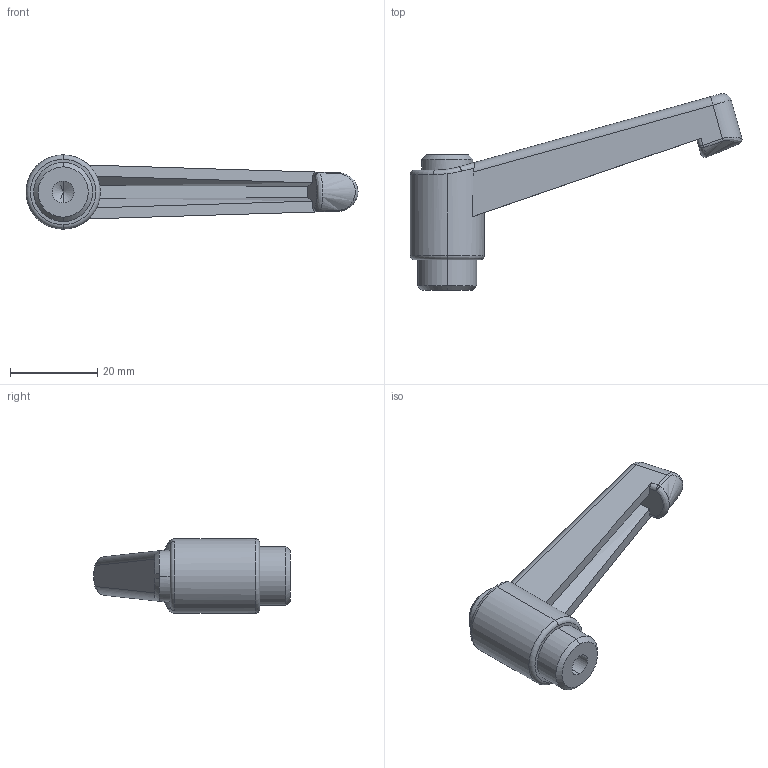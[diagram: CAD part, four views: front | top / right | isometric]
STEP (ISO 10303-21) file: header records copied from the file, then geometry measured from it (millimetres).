
FILE_DESCRIPTION (( 'STEP AP203' ), '1' );
FILE_NAME ('A-403-63-M6.STEP', '2015-11-21T17:37:10', ( '' ), ( '' ), 'SwSTEP 2.0', 'SolidWorks 2014', '' );
FILE_SCHEMA (( 'CONFIG_CONTROL_DESIGN' ));
Length unit declared in the file: millimetre
Products named in the file (1): A-403-63-M6
Bounding box: 76.02 x 45.03 x 17 mm (x, y, z)
Volume: 11159.7 mm3; surface area: 4841.2 mm2
Topology: 1 solids, 1 shells, 55 faces, 132 edges, 79 vertices
Faces by surface type: cylinder 15, plane 15, bspline 11, cone 6, torus 4, sphere 4
Entity records: 2157 total; most frequent: CARTESIAN_POINT 911, ORIENTED_EDGE 260, DIRECTION 229, EDGE_CURVE 130, AXIS2_PLACEMENT_3D 95, VERTEX_POINT 79, EDGE_LOOP 57, ADVANCED_FACE 55
